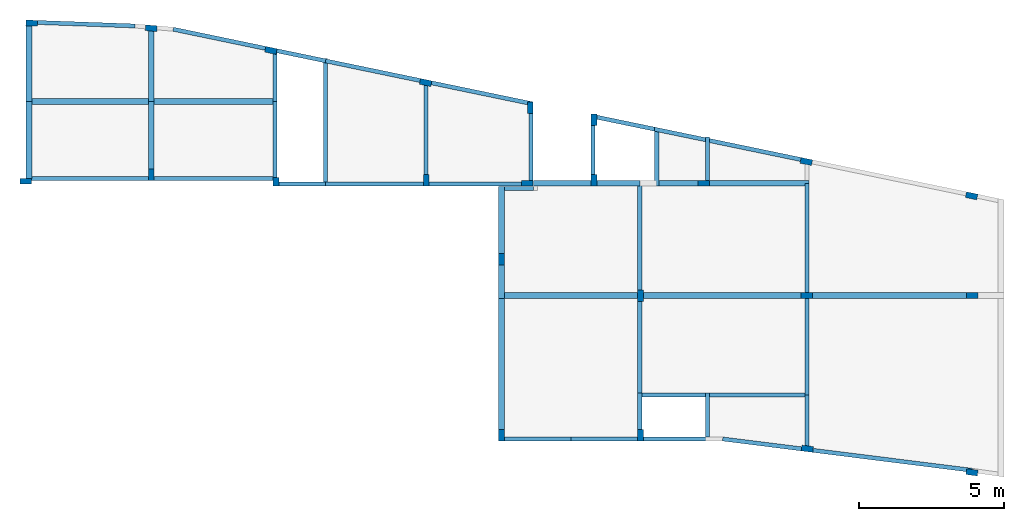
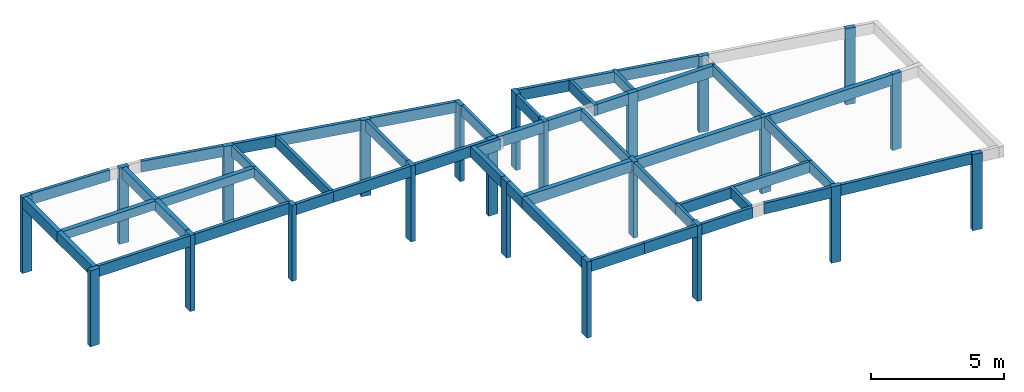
# One storey, part 1 of 2: 52 beams, 23 columns.
"""IFC4 building model written with IfcOpenShell, lengths in centimetres."""

from ifc_helpers import new_model, si_unit, derived_unit, frame, origin, origin_with_axes, origin_2d_with_axis, place, context, project, spatial, rectangle, extrude, clip, halfspace, material, element, save


model = new_model("IFC4")

# Units and contexts
model_context = context("Model", 3, precision=1e-05, world=origin_with_axes(), identifier="Body")
ifc_project = project(units=[si_unit("LENGTHUNIT", "METRE", prefix="CENTI"), si_unit("VOLUMEUNIT", "CUBIC_METRE"), si_unit("AREAUNIT", "SQUARE_METRE"), si_unit("POWERUNIT", "WATT"), si_unit("LUMINOUSFLUXUNIT", "LUMEN"), si_unit("ELECTRICCURRENTUNIT", "AMPERE"), si_unit("PRESSUREUNIT", "PASCAL", prefix="KILO"), si_unit("MASSUNIT", "GRAM", prefix="KILO"), si_unit("PLANEANGLEUNIT", "RADIAN"), derived_unit("VOLUMETRICFLOWRATEUNIT", [(si_unit("LENGTHUNIT", "METRE"), 3), (si_unit("TIMEUNIT", "SECOND"), -1)])], contexts=[model_context])

# Site, building, storey
site_placement = place(None, origin_with_axes())
site = spatial("IfcSite", under=ifc_project, at=site_placement)
building_placement = place(site_placement, origin())
building = spatial("IfcBuilding", under=site, at=building_placement)
placement_1 = place(building_placement, origin_with_axes())
placement_2 = place(placement_1, frame((0.0, 0.0, 550.0), z_axis=(0.0, 0.0, 1.0), x_axis=(1.0, 0.0, 0.0)))
placement_3 = place(placement_2, frame((0.0, 0.0, 350.0), z_axis=(0.0, 0.0, 1.0), x_axis=(1.0, 0.0, 0.0)))
placement_4 = place(placement_3, frame((0.0, 0.0, 350.0), z_axis=(0.0, 0.0, 1.0), x_axis=(1.0, 0.0, 0.0)))
storey_placement = place(placement_4, frame((0.0, 0.0, 350.0), z_axis=(0.0, 0.0, 1.0), x_axis=(1.0, 0.0, 0.0)))
storey = spatial("IfcBuildingStorey", under=building, at=storey_placement, Name="3º PAV.", CompositionType="ELEMENT", Elevation=1600.0)

# Columns
ifc_material = material(Name="Concreto")
column_1_placement = place(storey_placement, frame((1045.1201307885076, 95.92384188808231, 0.0), z_axis=(0.0, 0.0, 1.0), x_axis=(1.0, 0.0, 0.0)))
element("IfcColumn", 1, at=column_1_placement, inside=storey, material=ifc_material, Name="P1", context=model_context, shape_type="SolidModel", body=[
    extrude(rectangle(XDim=20.0, YDim=40.0, at=origin_2d_with_axis()), frame((0.0, 0.0, 0.0), z_axis=(0.0, 0.0, 1.0), x_axis=(-0.036643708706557, -0.999328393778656, 0.0)), (0.0, 0.0, -1.0), 350.0),
])
column_2_placement = place(storey_placement, frame((1887.0, -450.95, 0.0), z_axis=(0.0, 0.0, 1.0), x_axis=(1.0, 0.0, 0.0)))
element("IfcColumn", 2, at=column_2_placement, inside=storey, material=ifc_material, Name="P11", context=model_context, shape_type="SolidModel", body=[
    extrude(rectangle(XDim=20.0, YDim=30.0, at=origin_2d_with_axis()), frame((0.0, 0.0, 0.0), z_axis=(0.0, 0.0, 1.0), x_axis=(-1.0, 0.0, 0.0)), (0.0, 0.0, -1.0), 350.0),
])
column_3_placement = place(storey_placement, frame((2404.5, -445.9, 0.0), z_axis=(0.0, 0.0, 1.0), x_axis=(1.0, 0.0, 0.0)))
element("IfcColumn", 3, at=column_3_placement, inside=storey, material=ifc_material, Name="P12", context=model_context, shape_type="SolidModel", body=[
    extrude(rectangle(XDim=20.0, YDim=40.0, at=origin_2d_with_axis()), origin_with_axes(), (0.0, 0.0, -1.0), 350.0),
])
column_4_placement = place(storey_placement, frame((2753.0, -455.9, 0.0), z_axis=(0.0, 0.0, 1.0), x_axis=(1.0, 0.0, 0.0)))
element("IfcColumn", 4, at=column_4_placement, inside=storey, material=ifc_material, Name="P13", context=model_context, shape_type="SolidModel", body=[
    extrude(rectangle(XDim=20.0, YDim=40.0, at=origin_2d_with_axis()), frame((0.0, 0.0, 0.0), z_axis=(0.0, 0.0, 1.0), x_axis=(0.0, -1.0, 0.0)), (0.0, 0.0, -1.0), 350.0),
])
column_5_placement = place(storey_placement, frame((2983.0, -445.9, 0.0), z_axis=(0.0, 0.0, 1.0), x_axis=(1.0, 0.0, 0.0)))
element("IfcColumn", 5, at=column_5_placement, inside=storey, material=ifc_material, Name="P14", context=model_context, shape_type="SolidModel", body=[
    extrude(rectangle(XDim=20.0, YDim=40.0, at=origin_2d_with_axis()), origin_with_axes(), (0.0, 0.0, -1.0), 350.0),
])
column_6_placement = place(storey_placement, frame((3361.6, -455.9, 0.0), z_axis=(0.0, 0.0, 1.0), x_axis=(1.0, 0.0, 0.0)))
element("IfcColumn", 6, at=column_6_placement, inside=storey, material=ifc_material, Name="P15", context=model_context, shape_type="SolidModel", body=[
    extrude(rectangle(XDim=20.0, YDim=40.0, at=origin_2d_with_axis()), frame((0.0, 0.0, 0.0), z_axis=(0.0, 0.0, 1.0), x_axis=(0.0, -1.0, 0.0)), (0.0, 0.0, -1.0), 350.0),
])
column_7_placement = place(storey_placement, frame((4283.977691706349, -499.29875285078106, 0.0), z_axis=(0.0, 0.0, 1.0), x_axis=(1.0, 0.0, 0.0)))
element("IfcColumn", 7, at=column_7_placement, inside=storey, material=ifc_material, Name="P16", context=model_context, shape_type="SolidModel", body=[
    extrude(rectangle(XDim=20.0, YDim=40.0, at=origin_2d_with_axis()), frame((0.0, 0.0, 0.0), z_axis=(0.0, 0.0, 1.0), x_axis=(-0.204496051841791, -0.978867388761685, 0.0)), (0.0, 0.0, -1.0), 350.0),
])
column_8_placement = place(storey_placement, frame((1457.0958307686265, 78.33654703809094, 0.0), z_axis=(0.0, 0.0, 1.0), x_axis=(1.0, 0.0, 0.0)))
element("IfcColumn", 8, at=column_8_placement, inside=storey, material=ifc_material, Name="P2", context=model_context, shape_type="SolidModel", body=[
    extrude(rectangle(XDim=20.0, YDim=40.0, at=origin_2d_with_axis()), frame((0.0, 0.0, 0.0), z_axis=(0.0, 0.0, 1.0), x_axis=(-0.085416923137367, -0.996345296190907, 0.0)), (0.0, 0.0, -1.0), 350.0),
])
column_9_placement = place(storey_placement, frame((2663.6, -718.1, 0.0), z_axis=(0.0, 0.0, 1.0), x_axis=(1.0, 0.0, 0.0)))
element("IfcColumn", 9, at=column_9_placement, inside=storey, material=ifc_material, Name="P20", context=model_context, shape_type="SolidModel", body=[
    extrude(rectangle(XDim=20.0, YDim=40.0, at=origin_2d_with_axis()), frame((0.0, 0.0, 0.0), z_axis=(0.0, 0.0, 1.0), x_axis=(-1.0, 0.0, 0.0)), (0.0, 0.0, -1.0), 350.0),
])
column_10_placement = place(storey_placement, frame((3143.6, -843.6, 0.0), z_axis=(0.0, 0.0, 1.0), x_axis=(1.0, 0.0, 0.0)))
element("IfcColumn", 10, at=column_10_placement, inside=storey, material=ifc_material, Name="P24", context=model_context, shape_type="SolidModel", body=[
    extrude(rectangle(XDim=20.0, YDim=40.0, at=origin_2d_with_axis()), origin_with_axes(), (0.0, 0.0, -1.0), 350.0),
])
for number, where, z_axis, x_axis, name in (
    (11, (3716.6, -843.1, 0.0), (0.0, 0.0, 1.0), (1.0, 0.0, 0.0), "P25"),
    (12, (4285.6, -843.1, 0.0), (0.0, 0.0, 1.0), (1.0, 0.0, 0.0), "P26"),
):
    element("IfcColumn", number, at=place(storey_placement, frame(where, z_axis=z_axis, x_axis=x_axis)), inside=storey, material=ifc_material, Name=name, context=model_context, shape_type="SolidModel", body=[
        extrude(rectangle(XDim=20.0, YDim=40.0, at=origin_2d_with_axis()), frame((0.0, 0.0, 0.0), z_axis=(0.0, 0.0, 1.0), x_axis=(0.0, -1.0, 0.0)), (0.0, 0.0, -1.0), 350.0),
    ])
column_11_placement = place(storey_placement, frame((1869.3876708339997, 1.853517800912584, 0.0), z_axis=(0.0, 0.0, 1.0), x_axis=(1.0, 0.0, 0.0)))
element("IfcColumn", 13, at=column_11_placement, inside=storey, material=ifc_material, Name="P3", context=model_context, shape_type="SolidModel", body=[
    extrude(rectangle(XDim=20.0, YDim=40.0, at=origin_2d_with_axis()), frame((0.0, 0.0, 0.0), z_axis=(0.0, 0.0, 1.0), x_axis=(-0.202787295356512, -0.979222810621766, 0.0)), (0.0, 0.0, -1.0), 350.0),
])
for number, where, z_axis, x_axis, name in (
    (14, (2663.6, -1324.1, 0.0), (0.0, 0.0, 1.0), (1.0, 0.0, 0.0), "P33"),
    (15, (3143.6, -1324.1, 0.0), (0.0, 0.0, 1.0), (1.0, 0.0, 0.0), "P34"),
):
    element("IfcColumn", number, at=place(storey_placement, frame(where, z_axis=z_axis, x_axis=x_axis)), inside=storey, material=ifc_material, Name=name, context=model_context, shape_type="SolidModel", body=[
        extrude(rectangle(XDim=20.0, YDim=40.0, at=origin_2d_with_axis()), origin_with_axes(), (0.0, 0.0, -1.0), 350.0),
    ])
for number, where, z_axis, x_axis, name in (
    (16, (3717.853332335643, -1370.618852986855, 0.0), (0.0, 0.0, 1.0), (1.0, 0.0, 0.0), "P35"),
    (17, (4285.261038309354, -1452.042188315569, 0.0), (0.0, 0.0, 1.0), (1.0, 0.0, 0.0), "P36"),
):
    element("IfcColumn", number, at=place(storey_placement, frame(where, z_axis=z_axis, x_axis=x_axis)), inside=storey, material=ifc_material, Name=name, context=model_context, shape_type="SolidModel", body=[
        extrude(rectangle(XDim=20.0, YDim=40.0, at=origin_2d_with_axis()), frame((0.0, 0.0, 0.0), z_axis=(0.0, 0.0, 1.0), x_axis=(0.125333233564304, 0.992114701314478, 0.0)), (0.0, 0.0, -1.0), 350.0),
    ])
column_12_placement = place(storey_placement, frame((2402.755039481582, -108.86867388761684, 0.0), z_axis=(0.0, 0.0, 1.0), x_axis=(1.0, 0.0, 0.0)))
element("IfcColumn", 18, at=column_12_placement, inside=storey, material=ifc_material, Name="P4", context=model_context, shape_type="SolidModel", body=[
    extrude(rectangle(XDim=20.0, YDim=40.0, at=origin_2d_with_axis()), frame((0.0, 0.0, 0.0), z_axis=(0.0, 0.0, 1.0), x_axis=(-0.204496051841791, -0.978867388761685, 0.0)), (0.0, 0.0, -1.0), 350.0),
])
for number, where, z_axis, x_axis, name in (
    (19, (1457.1, -426.05, 0.0), (0.0, 0.0, 1.0), (1.0, 0.0, 0.0), "P41"),
    (20, (2763.0, -195.49, 0.0), (0.0, 0.0, 1.0), (1.0, 0.0, 0.0), "P5"),
    (21, (2983.0, -237.0, 0.0), (0.0, 0.0, 1.0), (1.0, 0.0, 0.0), "P6"),
):
    element("IfcColumn", number, at=place(storey_placement, frame(where, z_axis=z_axis, x_axis=x_axis)), inside=storey, material=ifc_material, Name=name, context=model_context, shape_type="SolidModel", body=[
        extrude(rectangle(XDim=20.0, YDim=40.0, at=origin_2d_with_axis()), origin_with_axes(), (0.0, 0.0, -1.0), 350.0),
    ])
column_13_placement = place(storey_placement, frame((3714.555039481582, -381.1386738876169, 0.0), z_axis=(0.0, 0.0, 1.0), x_axis=(1.0, 0.0, 0.0)))
element("IfcColumn", 22, at=column_13_placement, inside=storey, material=ifc_material, Name="P7", context=model_context, shape_type="SolidModel", body=[
    extrude(rectangle(XDim=20.0, YDim=40.0, at=origin_2d_with_axis()), frame((0.0, 0.0, 0.0), z_axis=(0.0, 0.0, 1.0), x_axis=(-0.204496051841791, -0.978867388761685, 0.0)), (0.0, 0.0, -1.0), 350.0),
])
column_14_placement = place(storey_placement, frame((1025.0, -448.8, 0.0), z_axis=(0.0, 0.0, 1.0), x_axis=(1.0, 0.0, 0.0)))
element("IfcColumn", 23, at=column_14_placement, inside=storey, material=ifc_material, Name="P9", context=model_context, shape_type="SolidModel", body=[
    extrude(rectangle(XDim=20.0, YDim=40.0, at=origin_2d_with_axis()), frame((0.0, 0.0, 0.0), z_axis=(0.0, 0.0, 1.0), x_axis=(0.0, -1.0, 0.0)), (0.0, 0.0, -1.0), 350.0),
])

# Beams
beam_1_placement = place(storey_placement, frame((1246.3, -173.88, 0.0), z_axis=(0.0, 0.0, 1.0), x_axis=(1.0, 0.0, 0.0)))
element("IfcBeam", 24, at=beam_1_placement, inside=storey, material=ifc_material, Name="V1", context=model_context, shape_type="SolidModel", body=[
    extrude(rectangle(XDim=20.0, YDim=40.0, at=origin_2d_with_axis()), frame((-210.8, 0.0, -20.0), z_axis=(1.0, 0.0, 0.0), x_axis=(0.0, 1.0, 0.0)), (0.0, 0.0, 1.0), 421.6),
])
beam_2_placement = place(storey_placement, frame((1670.55, -173.88, 0.0), z_axis=(0.0, 0.0, 1.0), x_axis=(1.0, 0.0, 0.0)))
element("IfcBeam", 25, at=beam_2_placement, inside=storey, material=ifc_material, Name="V1", context=model_context, shape_type="SolidModel", body=[
    extrude(rectangle(XDim=20.0, YDim=40.0, at=origin_2d_with_axis()), frame((-213.45, 0.0, -20.0), z_axis=(1.0, 0.0, 0.0), x_axis=(0.0, 1.0, 0.0)), (0.0, 0.0, 1.0), 426.9),
])
beam_3_placement = place(storey_placement, frame((1884.0, -83.145, 0.0), z_axis=(0.0, 0.0, 1.0), x_axis=(1.0, 0.0, 0.0)))
element("IfcBeam", 26, at=beam_3_placement, inside=storey, material=ifc_material, Name="V10", context=model_context, shape_type="SolidModel", body=[
    extrude(rectangle(XDim=14.0, YDim=50.0, at=origin_2d_with_axis()), frame((0.0, -90.735, -25.0), z_axis=(0.0, 1.0, 0.0), x_axis=(1.0, 0.0, 0.0)), (0.0, 0.0, 1.0), 181.47),
])
beam_4_placement = place(storey_placement, frame((1884.0, -304.915, 0.0), z_axis=(0.0, 0.0, 1.0), x_axis=(1.0, 0.0, 0.0)))
element("IfcBeam", 27, at=beam_4_placement, inside=storey, material=ifc_material, Name="V10", context=model_context, shape_type="SolidModel", body=[
    extrude(rectangle(XDim=14.0, YDim=50.0, at=origin_2d_with_axis()), frame((0.0, -131.035, -25.0), z_axis=(0.0, 1.0, 0.0), x_axis=(1.0, 0.0, 0.0)), (0.0, 0.0, 1.0), 262.07),
])
beam_5_placement = place(storey_placement, frame((2058.0, -245.77, 0.0), z_axis=(0.0, 0.0, 1.0), x_axis=(1.0, 0.0, 0.0)))
element("IfcBeam", 28, at=beam_5_placement, inside=storey, material=ifc_material, Name="V11", context=model_context, shape_type="SolidModel", body=[
    extrude(rectangle(XDim=14.0, YDim=50.0, at=origin_2d_with_axis()), frame((0.0, -220.13, -25.0), z_axis=(0.0, 1.0, 0.0), x_axis=(1.0, 0.0, 0.0)), (0.0, 0.0, 1.0), 440.26),
])
beam_6_placement = place(storey_placement, frame((2404.5, -271.943363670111, 0.0), z_axis=(0.0, 0.0, 1.0), x_axis=(1.0, 0.0, 0.0)))
element("IfcBeam", 29, at=beam_6_placement, inside=storey, material=ifc_material, Name="V12", context=model_context, shape_type="SolidModel", body=[
    extrude(rectangle(XDim=14.0, YDim=50.0, at=origin_2d_with_axis()), frame((0.0, -153.95663632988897, -25.0), z_axis=(0.0, 1.0, 0.0), x_axis=(1.0, 0.0, 0.0)), (0.0, 0.0, 1.0), 307.91327265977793),
])
beam_7_placement = place(storey_placement, frame((2663.6, -582.895, 0.0), z_axis=(0.0, 0.0, 1.0), x_axis=(1.0, 0.0, 0.0)))
element("IfcBeam", 30, at=beam_7_placement, inside=storey, material=ifc_material, Name="V13", context=model_context, shape_type="SolidModel", body=[
    extrude(rectangle(XDim=20.0, YDim=50.0, at=origin_2d_with_axis()), frame((0.0, -115.205, -25.0), z_axis=(0.0, 1.0, 0.0), x_axis=(1.0, 0.0, 0.0)), (0.0, 0.0, 1.0), 230.41),
])
beam_8_placement = place(storey_placement, frame((2663.6, -1073.6, 0.0), z_axis=(0.0, 0.0, 1.0), x_axis=(1.0, 0.0, 0.0)))
element("IfcBeam", 31, at=beam_8_placement, inside=storey, material=ifc_material, Name="V13", context=model_context, shape_type="SolidModel", body=[
    extrude(rectangle(XDim=20.0, YDim=50.0, at=origin_2d_with_axis()), frame((0.0, -230.5, -25.0), z_axis=(0.0, 1.0, 0.0), x_axis=(1.0, 0.0, 0.0)), (0.0, 0.0, 1.0), 461.0),
])
beam_9_placement = place(storey_placement, frame((2663.6, -795.6, 0.0), z_axis=(0.0, 0.0, 1.0), x_axis=(1.0, 0.0, 0.0)))
element("IfcBeam", 32, at=beam_9_placement, inside=storey, material=ifc_material, Name="V13", context=model_context, shape_type="SolidModel", body=[
    extrude(rectangle(XDim=20.0, YDim=50.0, at=origin_2d_with_axis()), frame((0.0, -57.5, -25.0), z_axis=(0.0, 1.0, 0.0), x_axis=(1.0, 0.0, 0.0)), (0.0, 0.0, 1.0), 115.0),
])
beam_10_placement = place(storey_placement, frame((2766.0, -330.695, 0.0), z_axis=(0.0, 0.0, 1.0), x_axis=(1.0, 0.0, 0.0)))
element("IfcBeam", 33, at=beam_10_placement, inside=storey, material=ifc_material, Name="V15", context=model_context, shape_type="SolidModel", body=[
    extrude(rectangle(XDim=14.0, YDim=50.0, at=origin_2d_with_axis()), frame((0.0, -115.205, -25.0), z_axis=(0.0, 1.0, 0.0), x_axis=(1.0, 0.0, 0.0)), (0.0, 0.0, 1.0), 230.41),
])
beam_11_placement = place(storey_placement, frame((2980.0, -341.45, 0.0), z_axis=(0.0, 0.0, 1.0), x_axis=(1.0, 0.0, 0.0)))
element("IfcBeam", 34, at=beam_11_placement, inside=storey, material=ifc_material, Name="V16", context=model_context, shape_type="SolidModel", body=[
    extrude(rectangle(XDim=14.0, YDim=50.0, at=origin_2d_with_axis()), frame((0.0, -84.45, -25.0), z_axis=(0.0, 1.0, 0.0), x_axis=(1.0, 0.0, 0.0)), (0.0, 0.0, 1.0), 168.9),
])
beam_12_placement = place(storey_placement, frame((3140.6, -639.75, 0.0), z_axis=(0.0, 0.0, 1.0), x_axis=(1.0, 0.0, 0.0)))
element("IfcBeam", 35, at=beam_12_placement, inside=storey, material=ifc_material, Name="V17", context=model_context, shape_type="SolidModel", body=[
    extrude(rectangle(XDim=14.0, YDim=50.0, at=origin_2d_with_axis()), frame((0.0, -183.85, -25.0), z_axis=(0.0, 1.0, 0.0), x_axis=(1.0, 0.0, 0.0)), (0.0, 0.0, 1.0), 367.7),
])
beam_13_placement = place(storey_placement, frame((3140.6, -1024.25, 0.0), z_axis=(0.0, 0.0, 1.0), x_axis=(1.0, 0.0, 0.0)))
element("IfcBeam", 36, at=beam_13_placement, inside=storey, material=ifc_material, Name="V17", context=model_context, shape_type="SolidModel", body=[
    extrude(rectangle(XDim=14.0, YDim=50.0, at=origin_2d_with_axis()), frame((0.0, -160.65, -25.0), z_axis=(0.0, 1.0, 0.0), x_axis=(1.0, 0.0, 0.0)), (0.0, 0.0, 1.0), 321.3),
])
beam_14_placement = place(storey_placement, frame((3140.6, -1241.0, 0.0), z_axis=(0.0, 0.0, 1.0), x_axis=(1.0, 0.0, 0.0)))
element("IfcBeam", 37, at=beam_14_placement, inside=storey, material=ifc_material, Name="V17", context=model_context, shape_type="SolidModel", body=[
    extrude(rectangle(XDim=14.0, YDim=50.0, at=origin_2d_with_axis()), frame((0.0, -63.1, -25.0), z_axis=(0.0, 1.0, 0.0), x_axis=(1.0, 0.0, 0.0)), (0.0, 0.0, 1.0), 126.2),
])
beam_15_placement = place(storey_placement, frame((3199.0, -371.322947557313, 0.0), z_axis=(0.0, 0.0, 1.0), x_axis=(1.0, 0.0, 0.0)))
element("IfcBeam", 38, at=beam_15_placement, inside=storey, material=ifc_material, Name="V18", context=model_context, shape_type="Clipping", body=[
    clip(extrude(rectangle(XDim=14.0, YDim=50.0, at=origin_2d_with_axis()), frame((0.0, -94.57705244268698, -25.0), z_axis=(0.0, 1.0, 0.0), x_axis=(1.0, 0.0, 0.0)), (0.0, 0.0, 1.0), 189.154104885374), halfspace(frame((-7.0, 94.57705244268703, -50.0), z_axis=(-0.203292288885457, -0.979118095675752, 0.0), x_axis=(0.0, 0.0, -0.203292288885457)), True)),
])
beam_16_placement = place(storey_placement, frame((3374.6, -1253.980675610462, 0.0), z_axis=(0.0, 0.0, 1.0), x_axis=(1.0, 0.0, 0.0)))
element("IfcBeam", 39, at=beam_16_placement, inside=storey, material=ifc_material, Name="V19", context=model_context, shape_type="SolidModel", body=[
    extrude(rectangle(XDim=14.0, YDim=50.0, at=origin_2d_with_axis()), frame((0.0, -76.08067561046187, -25.0), z_axis=(0.0, 1.0, 0.0), x_axis=(1.0, 0.0, 0.0)), (0.0, 0.0, 1.0), 152.16135122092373),
])
beam_17_placement = place(storey_placement, frame((1246.05, -439.05, 0.0), z_axis=(0.0, 0.0, 1.0), x_axis=(1.0, 0.0, 0.0)))
element("IfcBeam", 40, at=beam_17_placement, inside=storey, material=ifc_material, Name="V2", context=model_context, shape_type="SolidModel", body=[
    extrude(rectangle(XDim=14.0, YDim=50.0, at=origin_2d_with_axis()), frame((-201.05, 0.0, -25.0), z_axis=(1.0, 0.0, 0.0), x_axis=(0.0, 1.0, 0.0)), (0.0, 0.0, 1.0), 402.1),
])
beam_18_placement = place(storey_placement, frame((1672.05, -439.05, 0.0), z_axis=(0.0, 0.0, 1.0), x_axis=(1.0, 0.0, 0.0)))
element("IfcBeam", 41, at=beam_18_placement, inside=storey, material=ifc_material, Name="V2", context=model_context, shape_type="SolidModel", body=[
    extrude(rectangle(XDim=14.0, YDim=50.0, at=origin_2d_with_axis()), frame((-204.95, 0.0, -25.0), z_axis=(1.0, 0.0, 0.0), x_axis=(0.0, 1.0, 0.0)), (0.0, 0.0, 1.0), 409.9),
])
beam_19_placement = place(storey_placement, frame((3374.6, -370.8131905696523, 0.0), z_axis=(0.0, 0.0, 1.0), x_axis=(1.0, 0.0, 0.0)))
element("IfcBeam", 42, at=beam_19_placement, inside=storey, material=ifc_material, Name="V20", context=model_context, shape_type="SolidModel", body=[
    extrude(rectangle(XDim=14.0, YDim=50.0, at=origin_2d_with_axis()), frame((0.0, -75.08680943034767, -25.0), z_axis=(0.0, 1.0, 0.0), x_axis=(1.0, 0.0, 0.0)), (0.0, 0.0, 1.0), 150.17361886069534),
])
beam_20_placement = place(storey_placement, frame((3716.6, -644.5, 0.0), z_axis=(0.0, 0.0, 1.0), x_axis=(1.0, 0.0, 0.0)))
element("IfcBeam", 43, at=beam_20_placement, inside=storey, material=ifc_material, Name="V21", context=model_context, shape_type="SolidModel", body=[
    extrude(rectangle(XDim=14.0, YDim=50.0, at=origin_2d_with_axis()), frame((0.0, -188.6, -25.0), z_axis=(0.0, 1.0, 0.0), x_axis=(1.0, 0.0, 0.0)), (0.0, 0.0, 1.0), 377.2),
])
beam_21_placement = place(storey_placement, frame((3716.6, -1019.0, 0.0), z_axis=(0.0, 0.0, 1.0), x_axis=(1.0, 0.0, 0.0)))
element("IfcBeam", 44, at=beam_21_placement, inside=storey, material=ifc_material, Name="V21", context=model_context, shape_type="SolidModel", body=[
    extrude(rectangle(XDim=14.0, YDim=50.0, at=origin_2d_with_axis()), frame((0.0, -165.9, -25.0), z_axis=(0.0, 1.0, 0.0), x_axis=(1.0, 0.0, 0.0)), (0.0, 0.0, 1.0), 331.8),
])
beam_22_placement = place(storey_placement, frame((3716.6, -1273.0826731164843, 0.0), z_axis=(0.0, 0.0, 1.0), x_axis=(1.0, 0.0, 0.0)))
element("IfcBeam", 45, at=beam_22_placement, inside=storey, material=ifc_material, Name="V21", context=model_context, shape_type="SolidModel", body=[
    extrude(rectangle(XDim=14.0, YDim=50.0, at=origin_2d_with_axis()), frame((0.0, -88.18267311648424, -25.0), z_axis=(0.0, 1.0, 0.0), x_axis=(1.0, 0.0, 0.0)), (0.0, 0.0, 1.0), 176.36534623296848),
])
beam_23_placement = place(storey_placement, frame((1233.2215395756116, 92.1681, 0.0), z_axis=(0.0, 0.0, 1.0), x_axis=(1.0, 0.0, 0.0)))
element("IfcBeam", 46, at=beam_23_placement, inside=storey, material=ifc_material, Name="V23", context=model_context, shape_type="Clipping", body=[
    clip(extrude(rectangle(XDim=14.0, YDim=50.0, at=origin_2d_with_axis()), frame((-168.00153957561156, 6.011900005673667, -25.0), z_axis=(0.999359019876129, -0.03579873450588, 0.0), x_axis=(0.03579873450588, 0.999359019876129, 0.0)), (0.0, 0.0, 1.0), 336.21858858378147), halfspace(frame((168.25213071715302, 0.971213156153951, -50.0), z_axis=(-0.998167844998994, 0.060505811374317, 0.0), x_axis=(0.0, 0.0, -0.024733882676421)), True)),
])
beam_24_placement = place(storey_placement, frame((1691.910693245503, 41.90279632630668, 0.0), z_axis=(0.0, 0.0, 1.0), x_axis=(1.0, 0.0, 0.0)))
element("IfcBeam", 47, at=beam_24_placement, inside=storey, material=ifc_material, Name="V23", context=model_context, shape_type="Clipping", body=[
    clip(extrude(rectangle(XDim=14.0, YDim=50.0, at=origin_2d_with_axis()), frame((-159.3220797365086, 33.0627963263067, -25.0), z_axis=(0.97903401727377, -0.203696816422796, 0.0), x_axis=(0.203696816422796, 0.97903401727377, 0.0)), (0.0, 0.0, 1.0), 324.62752149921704), halfspace(frame((-157.89620202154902, 39.91603444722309, 0.0), z_axis=(0.989480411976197, -0.144666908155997, 0.0), x_axis=(0.0, 0.0, -0.059920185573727)), True)),
])
beam_25_placement = place(storey_placement, frame((2220.8955124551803, -68.04862498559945, 0.0), z_axis=(0.0, 0.0, 1.0), x_axis=(1.0, 0.0, 0.0)))
element("IfcBeam", 48, at=beam_25_placement, inside=storey, material=ifc_material, Name="V23", context=model_context, shape_type="SolidModel", body=[
    extrude(rectangle(XDim=14.0, YDim=50.0, at=origin_2d_with_axis()), frame((-162.8944875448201, 33.81137501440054, -25.0), z_axis=(0.9791301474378, -0.203234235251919, 0.0), x_axis=(0.203234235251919, 0.9791301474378, 0.0)), (0.0, 0.0, 1.0), 332.7330651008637),
])
beam_26_placement = place(storey_placement, frame((1973.790054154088, -16.766377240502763, 0.0), z_axis=(0.0, 0.0, 1.0), x_axis=(1.0, 0.0, 0.0)))
element("IfcBeam", 49, at=beam_26_placement, inside=storey, material=ifc_material, Name="V23", context=model_context, shape_type="SolidModel", body=[
    extrude(rectangle(XDim=14.0, YDim=50.0, at=origin_2d_with_axis()), frame((-84.21005415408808, 17.476377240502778, -25.0), z_axis=(0.979136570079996, -0.203203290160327, 0.0), x_axis=(0.203203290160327, 0.979136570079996, 0.0)), (0.0, 0.0, 1.0), 172.0088018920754),
])
beam_27_placement = place(storey_placement, frame((2597.2596215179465, -146.16697038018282, 0.0), z_axis=(0.0, 0.0, 1.0), x_axis=(1.0, 0.0, 0.0)))
element("IfcBeam", 50, at=beam_27_placement, inside=storey, material=ifc_material, Name="V23", context=model_context, shape_type="SolidModel", body=[
    extrude(rectangle(XDim=14.0, YDim=50.0, at=origin_2d_with_axis()), frame((-174.30962151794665, 36.176970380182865, -25.0), z_axis=(0.979134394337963, -0.20321377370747, 0.0), x_axis=(0.20321377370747, 0.979134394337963, 0.0)), (0.0, 0.0, 1.0), 356.0484087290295),
])
beam_28_placement = place(storey_placement, frame((3279.8, -287.82633884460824, 0.0), z_axis=(0.0, 0.0, 1.0), x_axis=(1.0, 0.0, 0.0)))
element("IfcBeam", 51, at=beam_28_placement, inside=storey, material=ifc_material, Name="V24", context=model_context, shape_type="Clipping", body=[
    clip(clip(extrude(rectangle(XDim=14.0, YDim=50.0, at=origin_2d_with_axis()), frame((-89.2230460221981, 18.525198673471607, -25.0), z_axis=(0.979118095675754, -0.20329228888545, 0.0), x_axis=(0.20329228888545, 0.979118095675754, 0.0)), (0.0, 0.0, 1.0), 182.251857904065), halfspace(frame((-87.8, 25.379025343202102, 0.0), z_axis=(1.0, 0.0, 0.0), x_axis=(0.0, 0.0, -0.20329228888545)), True)), halfspace(frame((87.8, -11.08044372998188, -50.0), z_axis=(-1.0, 0.0, 0.0), x_axis=(0.0, 0.0, 0.20329228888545)), True)),
])
beam_29_placement = place(storey_placement, frame((3535.094772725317, -340.8258294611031, 0.0), z_axis=(0.0, 0.0, 1.0), x_axis=(1.0, 0.0, 0.0)))
element("IfcBeam", 52, at=beam_29_placement, inside=storey, material=ifc_material, Name="V24", context=model_context, shape_type="SolidModel", body=[
    extrude(rectangle(XDim=14.0, YDim=50.0, at=origin_2d_with_axis()), frame((-160.4952272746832, 33.31417053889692, -25.0), z_axis=(0.979129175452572, -0.203238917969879, 0.0), x_axis=(0.203238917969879, 0.979129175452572, 0.0)), (0.0, 0.0, 1.0), 327.83259103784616),
])
beam_30_placement = place(storey_placement, frame((3095.2889771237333, -249.53248001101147, 0.0), z_axis=(0.0, 0.0, 1.0), x_axis=(1.0, 0.0, 0.0)))
element("IfcBeam", 53, at=beam_30_placement, inside=storey, material=ifc_material, Name="V24", context=model_context, shape_type="SolidModel", body=[
    extrude(rectangle(XDim=14.0, YDim=50.0, at=origin_2d_with_axis()), frame((-103.71102287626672, 21.517519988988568, -25.0), z_axis=(0.979147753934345, -0.203149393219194, 0.0), x_axis=(0.203149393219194, 0.979147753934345, 0.0)), (0.0, 0.0, 1.0), 211.83937247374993),
])
beam_31_placement = place(storey_placement, frame((3018.5998478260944, -1337.075, 0.0), z_axis=(0.0, 0.0, 1.0), x_axis=(1.0, 0.0, 0.0)))
element("IfcBeam", 54, at=beam_31_placement, inside=storey, material=ifc_material, Name="V25", context=model_context, shape_type="SolidModel", body=[
    extrude(rectangle(XDim=14.0, YDim=50.0, at=origin_2d_with_axis()), frame((-115.00015217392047, -0.005, -25.0), z_axis=(1.0, 4.3478260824e-05, 0.0), x_axis=(-4.3478260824e-05, 1.0, 0.0)), (0.0, 0.0, 1.0), 230.00030456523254),
])
beam_32_placement = place(storey_placement, frame((2788.600304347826, -1337.09, 0.0), z_axis=(0.0, 0.0, 1.0), x_axis=(1.0, 0.0, 0.0)))
element("IfcBeam", 55, at=beam_32_placement, inside=storey, material=ifc_material, Name="V25", context=model_context, shape_type="SolidModel", body=[
    extrude(rectangle(XDim=14.0, YDim=50.0, at=origin_2d_with_axis()), frame((-115.00030434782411, -0.01, -25.0), z_axis=(1.0, 8.6956521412e-05, 0.0), x_axis=(-8.6956521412e-05, 1.0, 0.0)), (0.0, 0.0, 1.0), 230.00060956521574),
])
beam_33_placement = place(storey_placement, frame((3264.1, -1337.065, 0.0), z_axis=(0.0, 0.0, 1.0), x_axis=(1.0, 0.0, 0.0)))
element("IfcBeam", 56, at=beam_33_placement, inside=storey, material=ifc_material, Name="V25", context=model_context, shape_type="SolidModel", body=[
    extrude(rectangle(XDim=14.0, YDim=50.0, at=origin_2d_with_axis()), frame((-110.5, -0.005, -25.0), z_axis=(1.0, 4.5248868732e-05, 0.0), x_axis=(-4.5248868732e-05, 1.0, 0.0)), (0.0, 0.0, 1.0), 221.0),
])
beam_34_placement = place(storey_placement, frame((3562.232653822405, -1354.0626518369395, 0.0), z_axis=(0.0, 0.0, 1.0), x_axis=(1.0, 0.0, 0.0)))
element("IfcBeam", 57, at=beam_34_placement, inside=storey, material=ifc_material, Name="V25", context=model_context, shape_type="Clipping", body=[
    clip(extrude(rectangle(XDim=14.0, YDim=50.0, at=origin_2d_with_axis()), frame((-136.2679614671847, 17.067348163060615, -25.0), z_axis=(0.992198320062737, -0.124669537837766, 0.0), x_axis=(0.124669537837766, 0.992198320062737, 0.0)), (0.0, 0.0, 1.0), 273.80141867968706), halfspace(frame((-135.39527470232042, 24.012736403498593, 0.0), z_axis=(0.998053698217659, -0.062360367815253, 0.0), x_axis=(0.0, 0.0, -0.06255304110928)), True)),
])
beam_35_placement = place(storey_placement, frame((4011.7236711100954, -1410.637685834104, 0.0), z_axis=(0.0, 0.0, 1.0), x_axis=(1.0, 0.0, 0.0)))
element("IfcBeam", 58, at=beam_35_placement, inside=storey, material=ifc_material, Name="V25", context=model_context, shape_type="SolidModel", body=[
    extrude(rectangle(XDim=14.0, YDim=50.0, at=origin_2d_with_axis()), frame((-274.4036711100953, 34.51768583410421, -25.0), z_axis=(0.992180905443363, -0.124808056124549, 0.0), x_axis=(0.124808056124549, 0.992180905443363, 0.0)), (0.0, 0.0, 1.0), 553.1323362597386),
])
beam_36_placement = place(storey_placement, frame((2573.75, -458.9, 0.0), z_axis=(0.0, 0.0, 1.0), x_axis=(1.0, 0.0, 0.0)))
element("IfcBeam", 59, at=beam_36_placement, inside=storey, material=ifc_material, Name="V3", context=model_context, shape_type="SolidModel", body=[
    extrude(rectangle(XDim=14.0, YDim=50.0, at=origin_2d_with_axis()), frame((-159.25, 0.0, -25.0), z_axis=(1.0, 0.0, 0.0), x_axis=(0.0, 1.0, 0.0)), (0.0, 0.0, 1.0), 318.5),
])
beam_37_placement = place(storey_placement, frame((1977.5, -458.9, 0.0), z_axis=(0.0, 0.0, 1.0), x_axis=(1.0, 0.0, 0.0)))
element("IfcBeam", 60, at=beam_37_placement, inside=storey, material=ifc_material, Name="V3", context=model_context, shape_type="SolidModel", body=[
    extrude(rectangle(XDim=14.0, YDim=50.0, at=origin_2d_with_axis()), frame((-80.5, 0.0, -25.0), z_axis=(1.0, 0.0, 0.0), x_axis=(0.0, 1.0, 0.0)), (0.0, 0.0, 1.0), 161.0),
])
beam_38_placement = place(storey_placement, frame((2226.25, -458.9, 0.0), z_axis=(0.0, 0.0, 1.0), x_axis=(1.0, 0.0, 0.0)))
element("IfcBeam", 61, at=beam_38_placement, inside=storey, material=ifc_material, Name="V3", context=model_context, shape_type="SolidModel", body=[
    extrude(rectangle(XDim=14.0, YDim=50.0, at=origin_2d_with_axis()), frame((-168.25, 0.0, -25.0), z_axis=(1.0, 0.0, 0.0), x_axis=(0.0, 1.0, 0.0)), (0.0, 0.0, 1.0), 336.5),
])
beam_39_placement = place(storey_placement, frame((2724.28, -474.69, 0.0), z_axis=(0.0, 0.0, 1.0), x_axis=(1.0, 0.0, 0.0)))
element("IfcBeam", 62, at=beam_39_placement, inside=storey, material=ifc_material, Name="V4", context=model_context, shape_type="SolidModel", body=[
    extrude(rectangle(XDim=14.0, YDim=50.0, at=origin_2d_with_axis()), frame((-50.68, 0.0, -25.0), z_axis=(1.0, 0.0, 0.0), x_axis=(0.0, 1.0, 0.0)), (0.0, 0.0, 1.0), 101.36),
])
beam_40_placement = place(storey_placement, frame((3552.6, -455.9, 0.0), z_axis=(0.0, 0.0, 1.0), x_axis=(1.0, 0.0, 0.0)))
element("IfcBeam", 63, at=beam_40_placement, inside=storey, material=ifc_material, Name="V5", context=model_context, shape_type="SolidModel", body=[
    extrude(rectangle(XDim=20.0, YDim=50.0, at=origin_2d_with_axis()), frame((-171.0, 0.0, -25.0), z_axis=(1.0, 0.0, 0.0), x_axis=(0.0, 1.0, 0.0)), (0.0, 0.0, 1.0), 342.0),
])
beam_41_placement = place(storey_placement, frame((3270.3, -455.9, 0.0), z_axis=(0.0, 0.0, 1.0), x_axis=(1.0, 0.0, 0.0)))
element("IfcBeam", 64, at=beam_41_placement, inside=storey, material=ifc_material, Name="V5", context=model_context, shape_type="SolidModel", body=[
    extrude(rectangle(XDim=20.0, YDim=50.0, at=origin_2d_with_axis()), frame((-71.3, 0.0, -25.0), z_axis=(1.0, 0.0, 0.0), x_axis=(0.0, 1.0, 0.0)), (0.0, 0.0, 1.0), 142.6),
])
beam_42_placement = place(storey_placement, frame((3066.8, -455.9, 0.0), z_axis=(0.0, 0.0, 1.0), x_axis=(1.0, 0.0, 0.0)))
element("IfcBeam", 65, at=beam_42_placement, inside=storey, material=ifc_material, Name="V5", context=model_context, shape_type="SolidModel", body=[
    extrude(rectangle(XDim=20.0, YDim=50.0, at=origin_2d_with_axis()), frame((-73.8, 0.0, -25.0), z_axis=(1.0, 0.0, 0.0), x_axis=(0.0, 1.0, 0.0)), (0.0, 0.0, 1.0), 147.6),
])
beam_43_placement = place(storey_placement, frame((2873.98, -455.9, 0.0), z_axis=(0.0, 0.0, 1.0), x_axis=(1.0, 0.0, 0.0)))
element("IfcBeam", 66, at=beam_43_placement, inside=storey, material=ifc_material, Name="V5", context=model_context, shape_type="SolidModel", body=[
    extrude(rectangle(XDim=20.0, YDim=50.0, at=origin_2d_with_axis()), frame((-99.02, 0.0, -25.0), z_axis=(1.0, 0.0, 0.0), x_axis=(0.0, 1.0, 0.0)), (0.0, 0.0, 1.0), 198.04),
])
beam_44_placement = place(storey_placement, frame((2903.6, -843.1, 0.0), z_axis=(0.0, 0.0, 1.0), x_axis=(1.0, 0.0, 0.0)))
element("IfcBeam", 67, at=beam_44_placement, inside=storey, material=ifc_material, Name="V6", context=model_context, shape_type="SolidModel", body=[
    extrude(rectangle(XDim=20.0, YDim=50.0, at=origin_2d_with_axis()), frame((-230.0, 0.0, -25.0), z_axis=(1.0, 0.0, 0.0), x_axis=(0.0, 1.0, 0.0)), (0.0, 0.0, 1.0), 460.0),
])
beam_45_placement = place(storey_placement, frame((3425.1, -843.1, 0.0), z_axis=(0.0, 0.0, 1.0), x_axis=(1.0, 0.0, 0.0)))
element("IfcBeam", 68, at=beam_45_placement, inside=storey, material=ifc_material, Name="V6", context=model_context, shape_type="SolidModel", body=[
    extrude(rectangle(XDim=20.0, YDim=50.0, at=origin_2d_with_axis()), frame((-271.5, 0.0, -25.0), z_axis=(1.0, 0.0, 0.0), x_axis=(0.0, 1.0, 0.0)), (0.0, 0.0, 1.0), 543.0),
])
beam_46_placement = place(storey_placement, frame((4001.1, -843.1, 0.0), z_axis=(0.0, 0.0, 1.0), x_axis=(1.0, 0.0, 0.0)))
element("IfcBeam", 69, at=beam_46_placement, inside=storey, material=ifc_material, Name="V6", context=model_context, shape_type="SolidModel", body=[
    extrude(rectangle(XDim=20.0, YDim=50.0, at=origin_2d_with_axis()), frame((-264.5, 0.0, -25.0), z_axis=(1.0, 0.0, 0.0), x_axis=(0.0, 1.0, 0.0)), (0.0, 0.0, 1.0), 529.0),
])
beam_47_placement = place(storey_placement, frame((3257.6, -1184.9, 0.0), z_axis=(0.0, 0.0, 1.0), x_axis=(1.0, 0.0, 0.0)))
element("IfcBeam", 70, at=beam_47_placement, inside=storey, material=ifc_material, Name="V7", context=model_context, shape_type="SolidModel", body=[
    extrude(rectangle(XDim=14.0, YDim=50.0, at=origin_2d_with_axis()), frame((-110.0, 0.0, -25.0), z_axis=(1.0, 0.0, 0.0), x_axis=(0.0, 1.0, 0.0)), (0.0, 0.0, 1.0), 220.0),
])
beam_48_placement = place(storey_placement, frame((3545.6, -1184.9, 0.0), z_axis=(0.0, 0.0, 1.0), x_axis=(1.0, 0.0, 0.0)))
element("IfcBeam", 71, at=beam_48_placement, inside=storey, material=ifc_material, Name="V7", context=model_context, shape_type="SolidModel", body=[
    extrude(rectangle(XDim=14.0, YDim=50.0, at=origin_2d_with_axis()), frame((-171.0, 0.0, -25.0), z_axis=(1.0, 0.0, 0.0), x_axis=(0.0, 1.0, 0.0)), (0.0, 0.0, 1.0), 342.0),
])
beam_49_placement = place(storey_placement, frame((1035.5, -306.34, 0.0), z_axis=(0.0, 0.0, 1.0), x_axis=(1.0, 0.0, 0.0)))
element("IfcBeam", 72, at=beam_49_placement, inside=storey, material=ifc_material, Name="V8", context=model_context, shape_type="SolidModel", body=[
    extrude(rectangle(XDim=20.0, YDim=50.0, at=origin_2d_with_axis()), frame((0.0, -132.46, -25.0), z_axis=(0.0, 1.0, 0.0), x_axis=(1.0, 0.0, 0.0)), (0.0, 0.0, 1.0), 264.92),
])
beam_50_placement = place(storey_placement, frame((1035.5, -43.621720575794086, 0.0), z_axis=(0.0, 0.0, 1.0), x_axis=(1.0, 0.0, 0.0)))
element("IfcBeam", 73, at=beam_50_placement, inside=storey, material=ifc_material, Name="V8", context=model_context, shape_type="SolidModel", body=[
    extrude(rectangle(XDim=20.0, YDim=50.0, at=origin_2d_with_axis()), frame((0.0, -130.2582794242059, -25.0), z_axis=(0.0, 1.0, 0.0), x_axis=(1.0, 0.0, 0.0)), (0.0, 0.0, 1.0), 260.5165588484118),
])
beam_51_placement = place(storey_placement, frame((1457.1, -289.965, 0.0), z_axis=(0.0, 0.0, 1.0), x_axis=(1.0, 0.0, 0.0)))
element("IfcBeam", 74, at=beam_51_placement, inside=storey, material=ifc_material, Name="V9", context=model_context, shape_type="SolidModel", body=[
    extrude(rectangle(XDim=20.0, YDim=50.0, at=origin_2d_with_axis()), frame((0.0, -116.085, -25.0), z_axis=(0.0, 1.0, 0.0), x_axis=(1.0, 0.0, 0.0)), (0.0, 0.0, 1.0), 232.17),
])
beam_52_placement = place(storey_placement, frame((1457.1, -52.361594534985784, 0.0), z_axis=(0.0, 0.0, 1.0), x_axis=(1.0, 0.0, 0.0)))
element("IfcBeam", 75, at=beam_52_placement, inside=storey, material=ifc_material, Name="V9", context=model_context, shape_type="SolidModel", body=[
    extrude(rectangle(XDim=20.0, YDim=50.0, at=origin_2d_with_axis()), frame((0.0, -121.51840546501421, -25.0), z_axis=(0.0, 1.0, 0.0), x_axis=(1.0, 0.0, 0.0)), (0.0, 0.0, 1.0), 243.03681093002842),
])

save(model, "model.ifc")
